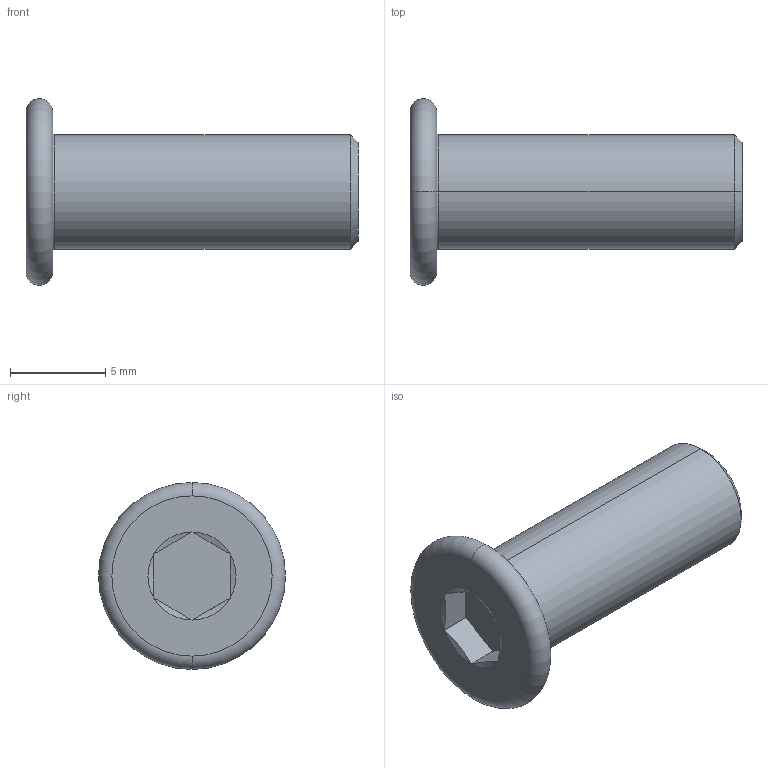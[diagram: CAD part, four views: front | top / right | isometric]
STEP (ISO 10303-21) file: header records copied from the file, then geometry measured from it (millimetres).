
FILE_DESCRIPTION (( 'STEP AP203' ), '1' );
FILE_NAME ('LGD-304M-M6x16.STEP', '2026-08-13T12:44:00', ( '' ), ( '' ), 'SwSTEP 2.0', 'SolidWorks 2020', '' );
FILE_SCHEMA (( 'CONFIG_CONTROL_DESIGN' ));
Length unit declared in the file: millimetre
Products named in the file (1): LGD-304M-M6x16
Bounding box: 17.4 x 9.8 x 9.8 mm (x, y, z)
Volume: 528 mm3; surface area: 492.6 mm2
Topology: 1 solids, 1 shells, 24 faces, 44 edges, 24 vertices
Faces by surface type: plane 10, cone 8, torus 4, cylinder 2
Entity records: 673 total; most frequent: CARTESIAN_POINT 119, DIRECTION 110, ORIENTED_EDGE 88, AXIS2_PLACEMENT_3D 47, EDGE_CURVE 44, EDGE_LOOP 26, FACE_OUTER_BOUND 24, ADVANCED_FACE 24
